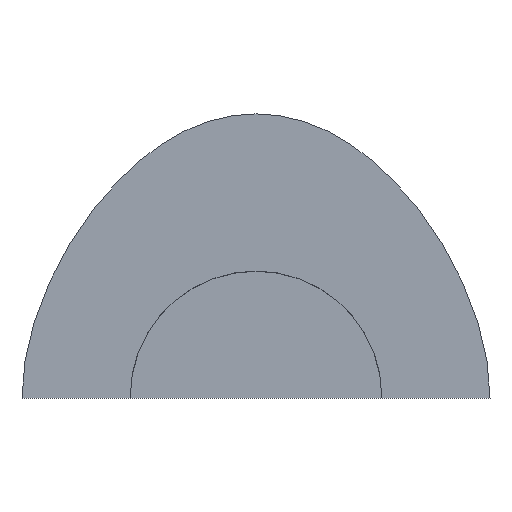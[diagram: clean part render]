
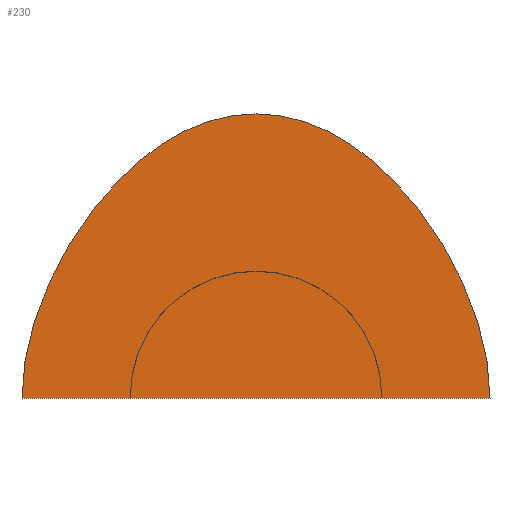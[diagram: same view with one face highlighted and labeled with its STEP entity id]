
A CAD part, top view. The second image highlights one B-rep face of the part: STEP entity #230.
In plain terms, the highlighted planar face has unit normal (0, 0, 1).
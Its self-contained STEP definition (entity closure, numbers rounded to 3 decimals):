
#193=CARTESIAN_POINT('Axis2P3D Location',(0.,45.777,0.)) ;
#198=CARTESIAN_POINT('Line Origine',(0.,0.,0.)) ;
#202=CARTESIAN_POINT('Vertex',(-93.,0.,0.)) ;
#204=CARTESIAN_POINT('Vertex',(93.,0.,0.)) ;
#208=CARTESIAN_POINT('Control Point',(0.,113.,0.)) ;
#209=CARTESIAN_POINT('Control Point',(29.27,113.,0.)) ;
#210=CARTESIAN_POINT('Control Point',(56.179,95.726,0.)) ;
#211=CARTESIAN_POINT('Control Point',(80.726,61.179,0.)) ;
#212=CARTESIAN_POINT('Control Point',(93.,29.27,0.)) ;
#213=CARTESIAN_POINT('Control Point',(93.,0.,0.)) ;
#214=CARTESIAN_POINT('Vertex',(0.,113.,0.)) ;
#218=CARTESIAN_POINT('Control Point',(0.,113.,0.)) ;
#219=CARTESIAN_POINT('Control Point',(-29.27,113.,0.)) ;
#220=CARTESIAN_POINT('Control Point',(-56.179,95.726,0.)) ;
#221=CARTESIAN_POINT('Control Point',(-80.726,61.179,0.)) ;
#222=CARTESIAN_POINT('Control Point',(-93.,29.27,0.)) ;
#223=CARTESIAN_POINT('Control Point',(-93.,0.,0.)) ;
#194=DIRECTION('Axis2P3D Direction',(0.,0.,1.)) ;
#195=DIRECTION('Axis2P3D XDirection',(1.,0.,0.)) ;
#199=DIRECTION('Vector Direction',(1.,0.,0.)) ;
#196=AXIS2_PLACEMENT_3D('Plane Axis2P3D',#193,#194,#195) ;
#226=ORIENTED_EDGE('',*,*,#206,.T.) ;
#227=ORIENTED_EDGE('',*,*,#216,.T.) ;
#228=ORIENTED_EDGE('',*,*,#224,.T.) ;
#200=VECTOR('Line Direction',#199,1.) ;
#230=ADVANCED_FACE('Fill.1',(#229),#197,.T.) ;
#207=B_SPLINE_CURVE_WITH_KNOTS('',5,(#208,#209,#210,#211,#212,#213),.UNSPECIFIED.,.F.,.U.,(6,6),(0.,146.349),.UNSPECIFIED.) ;
#217=B_SPLINE_CURVE_WITH_KNOTS('',5,(#218,#219,#220,#221,#222,#223),.UNSPECIFIED.,.F.,.U.,(6,6),(0.,146.349),.UNSPECIFIED.) ;
#206=EDGE_CURVE('',#203,#205,#201,.T.) ;
#216=EDGE_CURVE('',#205,#215,#207,.F.) ;
#224=EDGE_CURVE('',#215,#203,#217,.T.) ;
#225=EDGE_LOOP('',(#226,#227,#228)) ;
#229=FACE_OUTER_BOUND('',#225,.T.) ;
#201=LINE('Line',#198,#200) ;
#197=PLANE('',#196) ;
#203=VERTEX_POINT('',#202) ;
#205=VERTEX_POINT('',#204) ;
#215=VERTEX_POINT('',#214) ;
